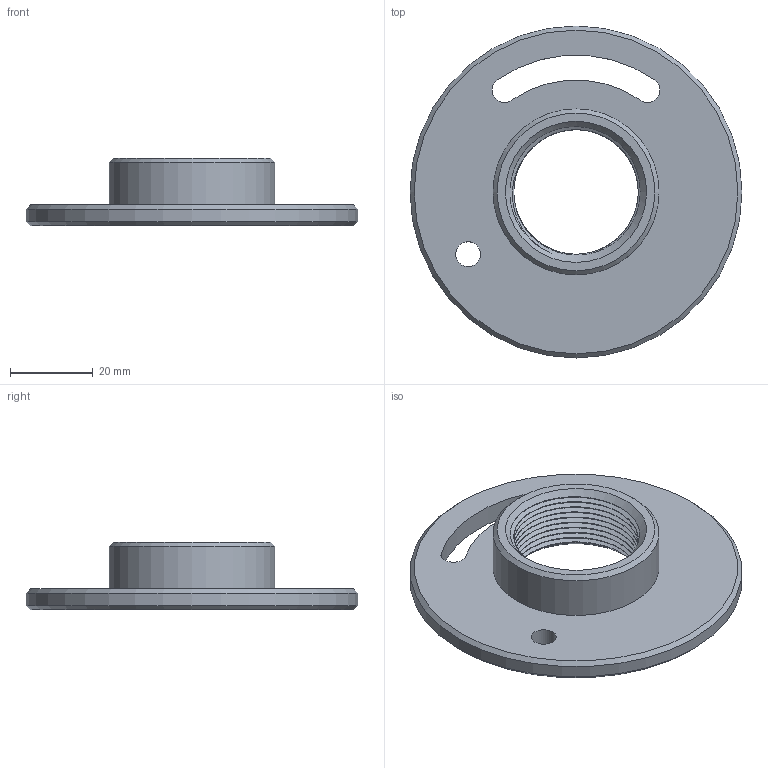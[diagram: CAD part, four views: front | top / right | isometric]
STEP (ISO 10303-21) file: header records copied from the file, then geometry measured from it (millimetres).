
FILE_DESCRIPTION(/* description */ ('CAx-IF Rec.Pracs.---Representation and Presentation of Product Manufacturing Information (PMI)---4.0---2014-10-13','CAx-IF Rec.Pracs.---3D Tessellated Geometry---0.4---2014-09-14','2;1'),/* implementation_level */ '2;1');
FILE_NAME(/* name */ 'czesc_gwintowana_NK',/* time_stamp */ '2020-03-20T17:29:24+01:00',/* author */ (''),/* organization */ (''),/* preprocessor_version */ 'ST-DEVELOPER v16.7',/* originating_system */ 'SIEMENS PLM Software NX 1847',/* authorisation */ $);
FILE_SCHEMA (('AP242_MANAGED_MODEL_BASED_3D_ENGINEERING_MIM_LF { 1 0 10303 442 1 1 4 }'));
Length unit declared in the file: millimetre
Products named in the file (1): czesc_gwintowana_NK
Bounding box: 80 x 80 x 16.24 mm (x, y, z)
Volume: 25000.3 mm3; surface area: 13256.1 mm2
Topology: 1 solids, 1 shells, 19 faces, 47 edges, 31 vertices
Faces by surface type: cylinder 9, cone 5, plane 3, bspline 2
Full cylindrical faces by diameter (mm): 6 x1, 40 x1, 80 x1
Entity records: 1856 total; most frequent: CARTESIAN_POINT 1335, DIRECTION 102, ORIENTED_EDGE 70, AXIS2_PLACEMENT_3D 57, EDGE_CURVE 35, EDGE_LOOP 34, FACE_BOUND 34, VERTEX_POINT 27
